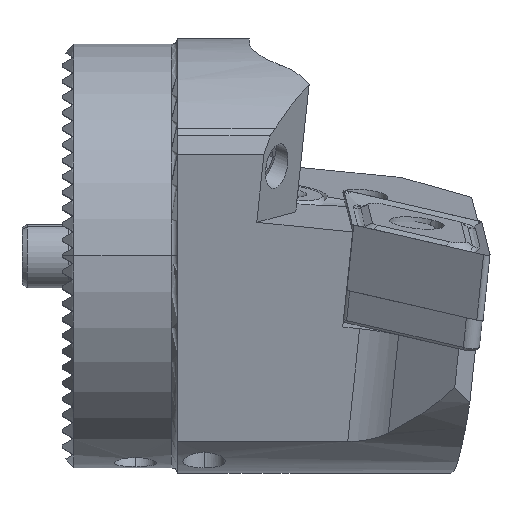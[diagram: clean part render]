
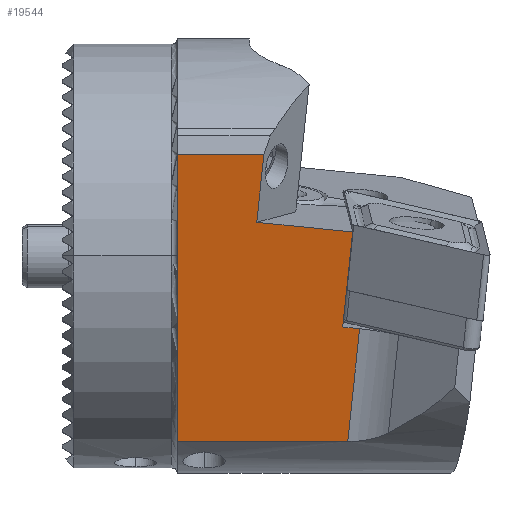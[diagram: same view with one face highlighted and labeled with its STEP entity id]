
A CAD part, top view. The second image highlights one B-rep face of the part: STEP entity #19544.
In plain terms, the highlighted planar face has unit normal (0, -0.208, 0.978).
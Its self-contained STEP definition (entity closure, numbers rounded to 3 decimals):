
#264 = CARTESIAN_POINT ( 'NONE',  ( 26.089, -6.733, 19.527 ) ) ;
#593 = CARTESIAN_POINT ( 'NONE',  ( -1.517, -17.554, 17.227 ) ) ;
#810 = LINE ( 'NONE', #3200, #19516 ) ;
#811 = DIRECTION ( 'NONE',  ( -0.995, 0.1, 0.021 ) ) ;
#870 = EDGE_CURVE ( 'NONE', #5021, #20140, #6488, .T. ) ;
#1258 = LINE ( 'NONE', #16511, #10092 ) ;
#1502 = CARTESIAN_POINT ( 'NONE',  ( 10.5, -6.245, 19.631 ) ) ;
#1525 = DIRECTION ( 'NONE',  ( 0.995, -0.1, -0.021 ) ) ;
#1787 = CARTESIAN_POINT ( 'NONE',  ( 10.5, 9.539, 22.986 ) ) ;
#2493 = ORIENTED_EDGE ( 'NONE', *, *, #5280, .F. ) ;
#2579 = LINE ( 'NONE', #5892, #19306 ) ;
#2657 = FACE_OUTER_BOUND ( 'NONE', #12200, .T. ) ;
#3200 = CARTESIAN_POINT ( 'NONE',  ( 39.235, -8.055, 19.246 ) ) ;
#3327 = ORIENTED_EDGE ( 'NONE', *, *, #3823, .F. ) ;
#3716 = VERTEX_POINT ( 'NONE', #7469 ) ;
#3823 = EDGE_CURVE ( 'NONE', #5021, #10842, #2579, .T. ) ;
#4321 = DIRECTION ( 'NONE',  ( 0.102, 0.973, 0.207 ) ) ;
#4443 = CARTESIAN_POINT ( 'NONE',  ( 27.686, -6.894, 19.493 ) ) ;
#4519 = CARTESIAN_POINT ( 'NONE',  ( 10.5, -2.279, 20.474 ) ) ;
#4654 = CARTESIAN_POINT ( 'NONE',  ( 10.5, -6.245, 19.631 ) ) ;
#5021 = VERTEX_POINT ( 'NONE', #10470 ) ;
#5044 = PLANE ( 'NONE',  #6119 ) ;
#5158 = CARTESIAN_POINT ( 'NONE',  ( 10.5, 9.539, 22.986 ) ) ;
#5280 = EDGE_CURVE ( 'NONE', #19093, #7504, #810, .T. ) ;
#5284 = ORIENTED_EDGE ( 'NONE', *, *, #870, .T. ) ;
#5462 = VECTOR ( 'NONE', #8168, 1000. ) ;
#5635 = DIRECTION ( 'NONE',  ( -0.102, -0.973, -0.207 ) ) ;
#5823 = DIRECTION ( 'NONE',  ( 0., 0.978, 0.208 ) ) ;
#5892 = CARTESIAN_POINT ( 'NONE',  ( 14.505, -29.814, 14.621 ) ) ;
#6038 = CARTESIAN_POINT ( 'NONE',  ( 25.165, -30.886, 14.393 ) ) ;
#6119 = AXIS2_PLACEMENT_3D ( 'NONE', #6748, #8095, #19605 ) ;
#6336 = VECTOR ( 'NONE', #4321, 1000. ) ;
#6488 = LINE ( 'NONE', #1787, #5462 ) ;
#6514 = LINE ( 'NONE', #8879, #14626 ) ;
#6645 = EDGE_CURVE ( 'NONE', #19731, #20064, #10810, .T. ) ;
#6748 = CARTESIAN_POINT ( 'NONE',  ( 25.165, -30.886, 14.393 ) ) ;
#6960 = LINE ( 'NONE', #9040, #19841 ) ;
#7469 = CARTESIAN_POINT ( 'NONE',  ( 27.032, 2.238, 21.434 ) ) ;
#7504 = VERTEX_POINT ( 'NONE', #4443 ) ;
#7899 = ORIENTED_EDGE ( 'NONE', *, *, #20904, .F. ) ;
#8095 = DIRECTION ( 'NONE',  ( 0., 0.208, -0.978 ) ) ;
#8168 = DIRECTION ( 'NONE',  ( -1., 0., 0. ) ) ;
#8651 = CARTESIAN_POINT ( 'NONE',  ( 10.5, -17.554, 17.227 ) ) ;
#8879 = CARTESIAN_POINT ( 'NONE',  ( 28.762, 2.064, 21.397 ) ) ;
#9040 = CARTESIAN_POINT ( 'NONE',  ( 26.089, -6.733, 19.527 ) ) ;
#9479 = CARTESIAN_POINT ( 'NONE',  ( 10.483, -4.262, 20.052 ) ) ;
#9551 = ORIENTED_EDGE ( 'NONE', *, *, #16519, .F. ) ;
#10092 = VECTOR ( 'NONE', #13040, 1000. ) ;
#10470 = CARTESIAN_POINT ( 'NONE',  ( 18.641, 9.539, 22.986 ) ) ;
#10785 = EDGE_CURVE ( 'NONE', #20064, #7504, #11144, .T. ) ;
#10810 = LINE ( 'NONE', #593, #18919 ) ;
#10842 = VERTEX_POINT ( 'NONE', #17420 ) ;
#11088 = ORIENTED_EDGE ( 'NONE', *, *, #12790, .T. ) ;
#11144 = LINE ( 'NONE', #6038, #6336 ) ;
#11922 = DIRECTION ( 'NONE',  ( 1., 0., 0. ) ) ;
#12200 = EDGE_LOOP ( 'NONE', ( #3327, #5284, #7899, #9551, #17110, #16869, #16362, #2493, #19070, #11088 ) ) ;
#12790 = EDGE_CURVE ( 'NONE', #3716, #10842, #6514, .T. ) ;
#12866 = CARTESIAN_POINT ( 'NONE',  ( 10.5, -2.279, 20.474 ) ) ;
#13004 = LINE ( 'NONE', #20230, #17567 ) ;
#13040 = DIRECTION ( 'NONE',  ( 0., 0.978, 0.208 ) ) ;
#13118 = VERTEX_POINT ( 'NONE', #1502 ) ;
#14626 = VECTOR ( 'NONE', #811, 1000. ) ;
#14788 = EDGE_CURVE ( 'NONE', #3716, #19093, #6960, .T. ) ;
#16362 = ORIENTED_EDGE ( 'NONE', *, *, #10785, .T. ) ;
#16511 = CARTESIAN_POINT ( 'NONE',  ( 10.5, 20.614, 25.34 ) ) ;
#16512 = CARTESIAN_POINT ( 'NONE',  ( 10.5, -2.94, 20.333 ) ) ;
#16519 = EDGE_CURVE ( 'NONE', #13118, #16529, #16940, .T. ) ;
#16529 = VERTEX_POINT ( 'NONE', #12866 ) ;
#16869 = ORIENTED_EDGE ( 'NONE', *, *, #6645, .T. ) ;
#16940 = B_SPLINE_CURVE_WITH_KNOTS ( 'NONE', 3,
 ( #4654, #20758, #9479, #16512, #4519 ),
 .UNSPECIFIED., .F., .F.,
 ( 4, 1, 4 ),
 ( 0.004, 0.006, 0.008 ),
 .UNSPECIFIED. ) ;
#17110 = ORIENTED_EDGE ( 'NONE', *, *, #17296, .F. ) ;
#17296 = EDGE_CURVE ( 'NONE', #19731, #13118, #1258, .T. ) ;
#17420 = CARTESIAN_POINT ( 'NONE',  ( 17.97, 3.149, 21.627 ) ) ;
#17567 = VECTOR ( 'NONE', #5823, 1000. ) ;
#17689 = CARTESIAN_POINT ( 'NONE',  ( 26.566, -17.554, 17.227 ) ) ;
#18919 = VECTOR ( 'NONE', #11922, 1000. ) ;
#19070 = ORIENTED_EDGE ( 'NONE', *, *, #14788, .F. ) ;
#19093 = VERTEX_POINT ( 'NONE', #264 ) ;
#19306 = VECTOR ( 'NONE', #20654, 1000. ) ;
#19516 = VECTOR ( 'NONE', #1525, 1000. ) ;
#19544 = ADVANCED_FACE ( 'NONE', ( #2657 ), #5044, .F. ) ;
#19605 = DIRECTION ( 'NONE',  ( 0., 0.978, 0.208 ) ) ;
#19731 = VERTEX_POINT ( 'NONE', #8651 ) ;
#19841 = VECTOR ( 'NONE', #5635, 1000. ) ;
#20064 = VERTEX_POINT ( 'NONE', #17689 ) ;
#20140 = VERTEX_POINT ( 'NONE', #5158 ) ;
#20230 = CARTESIAN_POINT ( 'NONE',  ( 10.5, 20.614, 25.34 ) ) ;
#20654 = DIRECTION ( 'NONE',  ( -0.102, -0.973, -0.207 ) ) ;
#20758 = CARTESIAN_POINT ( 'NONE',  ( 10.5, -5.584, 19.771 ) ) ;
#20904 = EDGE_CURVE ( 'NONE', #16529, #20140, #13004, .T. ) ;
